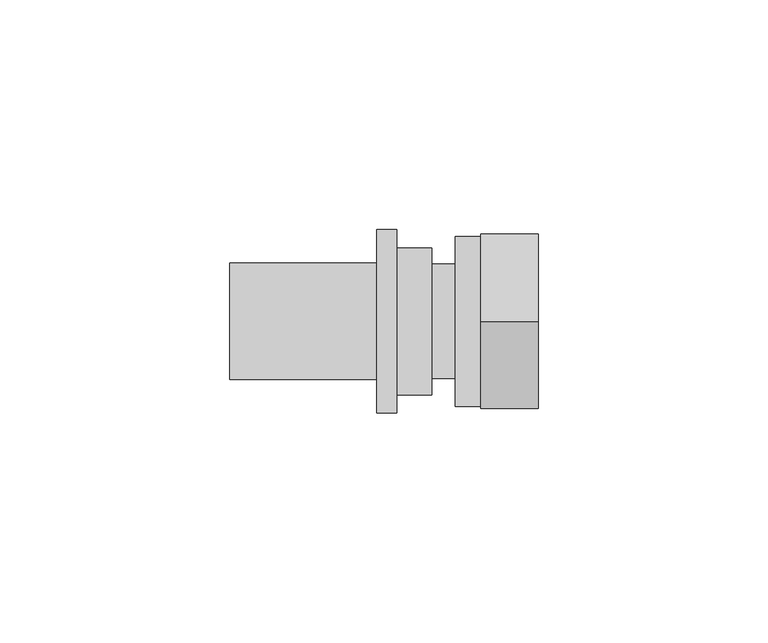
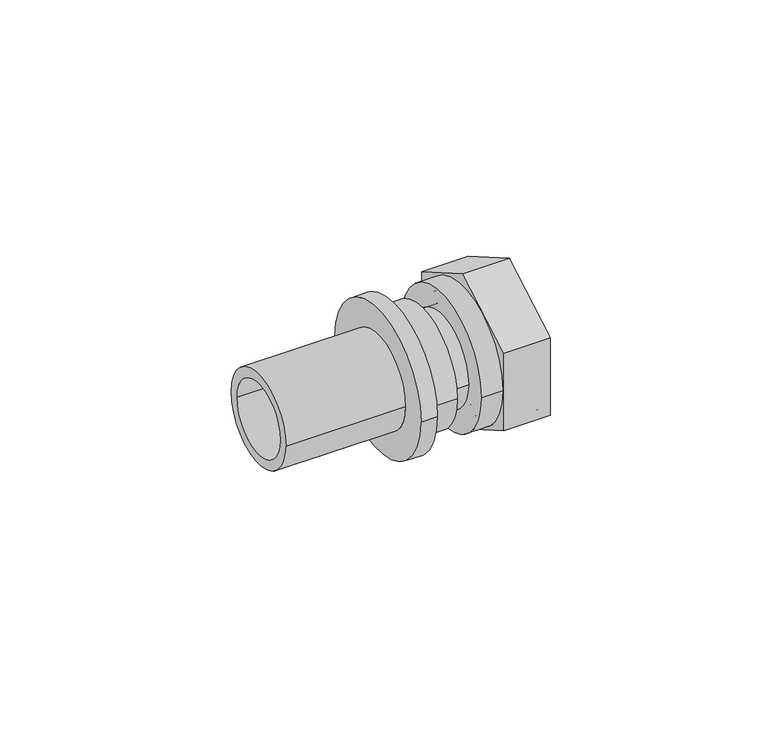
"""IFC4 building model written with IfcOpenShell, lengths in millimetres: pipe fitting geometry, REHAU_RAUTITAN_Adaptor_RX+_union nut : REHAU_RAUTITAN_Adaptor_RX+_union nut."""

from ifc_helpers import new_model, si_unit, point, frame, origin, origin_2d, place, context, project, spatial, polyline, circle_curve, trimmed, segment, composite_curve, outline, extrude, source, transform, mapped, element, save
from ifc_brep_helpers import plane_surface, cylinder_surface, revolved_surface, advanced_brep


def pipe_fitting_96b89afd(model_context):
    return source(origin(), model_context, "Body", "SolidModel", [
        extrude(outline(polyline([(0.0, -21.9393102), (-19.0, -10.9696551), (-19.0, 10.9696551), (0.0, 21.9393102), (19.0, 10.9696551), (19.0, -10.9696551), (0.0, -21.9393102)]), holes=[composite_curve([segment(trimmed(circle_curve(origin_2d(), 18.5), [point((-18.5, 0.0))], [point((18.5, 0.0))], True, "CARTESIAN"), True, "CONTINUOUS"), segment(trimmed(circle_curve(origin_2d(), 18.5), [point((18.5, 0.0))], [point((-18.5, 0.0))], True, "CARTESIAN"), True, "CONTINUOUS")], self_intersect=False)]), frame((10.7, 0.0, 0.0), z_axis=(1.0, 0.0, 0.0), x_axis=(0.0, 1.0, 0.0)), (0.0, 0.0, 1.0), 12.5),
        advanced_brep(
        [(23.2, 18.5, 0.0), (23.2, -18.5, 0.0), (5.1, -18.5, 0.0), (5.1, 18.5, 0.0), (8.0, 15.3, 0.0), (8.0, -15.3, 0.0), (23.2, -15.3, 0.0), (23.2, 15.3, 0.0), (5.1, 12.4, 0.0), (5.1, -12.4, 0.0), (8.0, -12.4, 0.0), (8.0, 12.4, 0.0)],
        [
            (0, 1, circle_curve(frame((23.2, 0.0, 0.0), z_axis=(-1.0, 0.0, 0.0), x_axis=(0.0, -1.0, 0.0)), 18.5)),
            (1, 2),
            (2, 3, circle_curve(frame((5.1, 0.0, 0.0), z_axis=(1.0, 0.0, 0.0), x_axis=(0.0, -1.0, 0.0)), 18.5)),
            (3, 0),
            (4, 5, circle_curve(frame((8.0, 0.0, 0.0), z_axis=(-1.0, 0.0, 0.0), x_axis=(0.0, -1.0, 0.0)), 15.3)),
            (5, 6),
            (6, 7, circle_curve(frame((23.2, 0.0, 0.0), z_axis=(1.0, 0.0, 0.0), x_axis=(0.0, -1.0, 0.0)), 15.3)),
            (7, 4),
            (8, 9, circle_curve(frame((5.1, 0.0, 0.0), z_axis=(-1.0, 0.0, 0.0), x_axis=(0.0, -1.0, 0.0)), 12.4)),
            (9, 10),
            (10, 11, circle_curve(frame((8.0, 0.0, 0.0), z_axis=(1.0, 0.0, 0.0), x_axis=(0.0, -1.0, 0.0)), 12.4)),
            (11, 8),
            (1, 0, circle_curve(frame((23.2, 0.0, 0.0), z_axis=(-1.0, 0.0, 0.0), x_axis=(0.0, 1.0, 0.0)), 18.5)),
            (3, 2, circle_curve(frame((5.1, 0.0, 0.0), z_axis=(1.0, 0.0, 0.0), x_axis=(0.0, 1.0, 0.0)), 18.5)),
            (6, 7, circle_curve(frame((23.2, 0.0, 0.0), z_axis=(-1.0, 0.0, 0.0), x_axis=(0.0, 1.0, 0.0)), 15.3)),
            (5, 4, circle_curve(frame((8.0, 0.0, 0.0), z_axis=(-1.0, 0.0, 0.0), x_axis=(0.0, 1.0, 0.0)), 15.3)),
            (10, 11, circle_curve(frame((8.0, 0.0, 0.0), z_axis=(-1.0, 0.0, 0.0), x_axis=(0.0, 1.0, 0.0)), 12.4)),
            (9, 8, circle_curve(frame((5.1, 0.0, 0.0), z_axis=(-1.0, 0.0, 0.0), x_axis=(0.0, 1.0, 0.0)), 12.4)),
        ],
        [
            cylinder_surface(frame((0.0, 0.0, 0.0), z_axis=(1.0, 0.0, 0.0), x_axis=(0.0, -1.0, 0.0)), 18.5),
            revolved_surface(polyline([(23.2, -15.3, 0.0), (8.0, -15.3, 0.0)]), (0.0, 0.0, 0.0), (1.0, 0.0, 0.0)),
            revolved_surface(polyline([(8.0, -12.4, 0.0), (5.1, -12.4, 0.0)]), (0.0, 0.0, 0.0), (1.0, 0.0, 0.0)),
            cylinder_surface(frame((0.0, 0.0, 0.0), z_axis=(1.0, 0.0, 0.0), x_axis=(0.0, 1.0, 0.0)), 18.5),
            plane_surface(frame((23.2, 0.0, 0.0), z_axis=(1.0, 0.0, 0.0), x_axis=(0.0, 1.0, 0.0))),
            revolved_surface(polyline([(23.2, 15.3, 0.0), (8.0, 15.3, 0.0)]), (0.0, 0.0, 0.0), (1.0, 0.0, 0.0)),
            plane_surface(frame((8.0, 0.0, 0.0), z_axis=(1.0, 0.0, 0.0), x_axis=(0.0, 1.0, 0.0))),
            revolved_surface(polyline([(8.0, 12.4, 0.0), (5.1, 12.4, 0.0)]), (0.0, 0.0, 0.0), (1.0, 0.0, 0.0)),
            plane_surface(frame((5.1, 0.0, 0.0), z_axis=(-1.0, 0.0, 0.0), x_axis=(0.0, 1.0, 0.0))),
        ],
        [
            (0, [[1, 2, 3, 4]]),
            (1, [[5, 6, 7, 8]]),
            (2, [[9, 10, 11, 12]]),
            (3, [[13, -4, 14, -2]]),
            (4, [[-13, -1], [15, -7]]),
            (5, [[16, -8, -15, -6]]),
            (6, [[-16, -5], [17, -11]]),
            (7, [[18, -12, -17, -10]]),
            (8, [[-14, -3], [-18, -9]]),
        ],
    ),
        advanced_brep(
        [(8.0, 12.5, 0.0), (8.0, -12.5, 0.0), (0.0, -12.5, 0.0), (0.0, 12.5, 0.0), (11.0, 15.3, 0.0), (11.0, -15.3, 0.0), (8.0, -15.3, 0.0), (8.0, 15.3, 0.0), (1.4730817, 10.0, 0.0), (1.4730817, -10.0, 0.0), (11.0, -10.0, 0.0), (11.0, 10.0, 0.0), (0.0, 7.8264556, 0.0), (0.0, -7.8264556, 0.0), (1.4730817, -7.8264556, 0.0), (1.4730817, 7.8264556, 0.0)],
        [
            (0, 1, circle_curve(frame((8.0, 0.0, 0.0), z_axis=(-1.0, 0.0, 0.0), x_axis=(0.0, -1.0, 0.0)), 12.5)),
            (1, 2),
            (2, 3, circle_curve(frame((0.0, 0.0, 0.0), z_axis=(1.0, 0.0, 0.0), x_axis=(0.0, -1.0, 0.0)), 12.5)),
            (3, 0),
            (4, 5, circle_curve(frame((11.0, 0.0, 0.0), z_axis=(-1.0, 0.0, 0.0), x_axis=(0.0, -1.0, 0.0)), 15.3)),
            (5, 6),
            (6, 7, circle_curve(frame((8.0, 0.0, 0.0), z_axis=(1.0, 0.0, 0.0), x_axis=(0.0, -1.0, 0.0)), 15.3)),
            (7, 4),
            (8, 9, circle_curve(frame((1.4730817, 0.0, 0.0), z_axis=(-1.0, 0.0, 0.0), x_axis=(0.0, -1.0, 0.0)), 10.0)),
            (9, 10),
            (10, 11, circle_curve(frame((11.0, 0.0, 0.0), z_axis=(1.0, 0.0, 0.0), x_axis=(0.0, -1.0, 0.0)), 10.0)),
            (11, 8),
            (2, 3, circle_curve(frame((0.0, 0.0, 0.0), z_axis=(-1.0, 0.0, 0.0), x_axis=(0.0, 1.0, 0.0)), 12.5)),
            (12, 13, circle_curve(frame((0.0, 0.0, 0.0), z_axis=(1.0, 0.0, 0.0), x_axis=(0.0, 1.0, 0.0)), 7.8264556)),
            (13, 12, circle_curve(frame((0.0, 0.0, 0.0), z_axis=(1.0, 0.0, 0.0), x_axis=(0.0, -1.0, 0.0)), 7.8264556)),
            (1, 0, circle_curve(frame((8.0, 0.0, 0.0), z_axis=(-1.0, 0.0, 0.0), x_axis=(0.0, 1.0, 0.0)), 12.5)),
            (6, 7, circle_curve(frame((8.0, 0.0, 0.0), z_axis=(-1.0, 0.0, 0.0), x_axis=(0.0, 1.0, 0.0)), 15.3)),
            (5, 4, circle_curve(frame((11.0, 0.0, 0.0), z_axis=(-1.0, 0.0, 0.0), x_axis=(0.0, 1.0, 0.0)), 15.3)),
            (10, 11, circle_curve(frame((11.0, 0.0, 0.0), z_axis=(-1.0, 0.0, 0.0), x_axis=(0.0, 1.0, 0.0)), 10.0)),
            (9, 8, circle_curve(frame((1.4730817, 0.0, 0.0), z_axis=(-1.0, 0.0, 0.0), x_axis=(0.0, 1.0, 0.0)), 10.0)),
            (13, 14),
            (14, 15, circle_curve(frame((1.4730817, 0.0, 0.0), z_axis=(1.0, 0.0, 0.0), x_axis=(0.0, -1.0, 0.0)), 7.8264556)),
            (15, 12),
            (14, 15, circle_curve(frame((1.4730817, 0.0, 0.0), z_axis=(-1.0, 0.0, 0.0), x_axis=(0.0, 1.0, 0.0)), 7.8264556)),
        ],
        [
            cylinder_surface(frame((0.0, 0.0, 0.0), z_axis=(1.0, 0.0, 0.0), x_axis=(0.0, -1.0, 0.0)), 12.5),
            cylinder_surface(frame((0.0, 0.0, 0.0), z_axis=(1.0, 0.0, 0.0), x_axis=(0.0, -1.0, 0.0)), 15.3),
            revolved_surface(polyline([(11.0, -10.0, 0.0), (1.4730817, -10.0, 0.0)]), (0.0, 0.0, 0.0), (1.0, 0.0, 0.0)),
            plane_surface(frame((0.0, 0.0, 0.0), z_axis=(-1.0, 0.0, 0.0), x_axis=(0.0, 1.0, 0.0))),
            cylinder_surface(frame((0.0, 0.0, 0.0), z_axis=(1.0, 0.0, 0.0), x_axis=(0.0, 1.0, 0.0)), 12.5),
            plane_surface(frame((8.0, 0.0, 0.0), z_axis=(-1.0, 0.0, 0.0), x_axis=(0.0, 1.0, 0.0))),
            cylinder_surface(frame((0.0, 0.0, 0.0), z_axis=(1.0, 0.0, 0.0), x_axis=(0.0, 1.0, 0.0)), 15.3),
            plane_surface(frame((11.0, 0.0, 0.0), z_axis=(1.0, 0.0, 0.0), x_axis=(0.0, 1.0, 0.0))),
            revolved_surface(polyline([(11.0, 10.0, 0.0), (1.4730817, 10.0, 0.0)]), (0.0, 0.0, 0.0), (1.0, 0.0, 0.0)),
            revolved_surface(polyline([(1.4730817, -7.8264556, 0.0), (0.0, -7.8264556, 0.0)]), (0.0, 0.0, 0.0), (1.0, 0.0, 0.0)),
            plane_surface(frame((1.4730817, 0.0, 0.0), z_axis=(1.0, 0.0, 0.0), x_axis=(0.0, 1.0, 0.0))),
            revolved_surface(polyline([(1.4730817, 7.8264556, 0.0), (0.0, 7.8264556, 0.0)]), (0.0, 0.0, 0.0), (1.0, 0.0, 0.0)),
        ],
        [
            (0, [[1, 2, 3, 4]]),
            (1, [[5, 6, 7, 8]]),
            (2, [[9, 10, 11, 12]]),
            (3, [[13, -3], [14, 15]]),
            (4, [[16, -4, -13, -2]]),
            (5, [[17, -7], [-16, -1]]),
            (6, [[18, -8, -17, -6]]),
            (7, [[-18, -5], [19, -11]]),
            (8, [[20, -12, -19, -10]]),
            (9, [[-15, 21, 22, 23]]),
            (10, [[-20, -9], [24, -22]]),
            (11, [[-14, -23, -24, -21]]),
        ],
    ),
        advanced_brep(
        [(0.0, 16.0, 0.0), (0.0, -16.0, 0.0), (-7.65, -16.0, 0.0), (-7.65, 16.0, 0.0), (-44.0, 10.0, 0.0), (-44.0, -10.0, 0.0), (0.0, -10.0, 0.0), (0.0, 10.0, 0.0), (-12.0, 12.725, 0.0), (-12.0, -12.725, 0.0), (-44.0, -12.725, 0.0), (-44.0, 12.725, 0.0), (-7.65, 20.0, 0.0), (-7.65, -20.0, 0.0), (-12.0, -20.0, 0.0), (-12.0, 20.0, 0.0)],
        [
            (0, 1, circle_curve(frame((0.0, 0.0, 0.0), z_axis=(-1.0, 0.0, 0.0), x_axis=(0.0, -1.0, 0.0)), 16.0)),
            (1, 2),
            (2, 3, circle_curve(frame((-7.65, 0.0, 0.0), z_axis=(1.0, 0.0, 0.0), x_axis=(0.0, -1.0, 0.0)), 16.0)),
            (3, 0),
            (4, 5, circle_curve(frame((-44.0, 0.0, 0.0), z_axis=(-1.0, 0.0, 0.0), x_axis=(0.0, -1.0, 0.0)), 10.0)),
            (5, 6),
            (6, 7, circle_curve(frame((0.0, 0.0, 0.0), z_axis=(1.0, 0.0, 0.0), x_axis=(0.0, -1.0, 0.0)), 10.0)),
            (7, 4),
            (8, 9, circle_curve(frame((-12.0, 0.0, 0.0), z_axis=(-1.0, 0.0, 0.0), x_axis=(0.0, -1.0, 0.0)), 12.725)),
            (9, 10),
            (10, 11, circle_curve(frame((-44.0, 0.0, 0.0), z_axis=(1.0, 0.0, 0.0), x_axis=(0.0, -1.0, 0.0)), 12.725)),
            (11, 8),
            (12, 13, circle_curve(frame((-7.65, 0.0, 0.0), z_axis=(-1.0, 0.0, 0.0), x_axis=(0.0, -1.0, 0.0)), 20.0)),
            (13, 14),
            (14, 15, circle_curve(frame((-12.0, 0.0, 0.0), z_axis=(1.0, 0.0, 0.0), x_axis=(0.0, -1.0, 0.0)), 20.0)),
            (15, 12),
            (1, 0, circle_curve(frame((0.0, 0.0, 0.0), z_axis=(-1.0, 0.0, 0.0), x_axis=(0.0, 1.0, 0.0)), 16.0)),
            (3, 2, circle_curve(frame((-7.65, 0.0, 0.0), z_axis=(1.0, 0.0, 0.0), x_axis=(0.0, 1.0, 0.0)), 16.0)),
            (6, 7, circle_curve(frame((0.0, 0.0, 0.0), z_axis=(-1.0, 0.0, 0.0), x_axis=(0.0, 1.0, 0.0)), 10.0)),
            (5, 4, circle_curve(frame((-44.0, 0.0, 0.0), z_axis=(-1.0, 0.0, 0.0), x_axis=(0.0, 1.0, 0.0)), 10.0)),
            (10, 11, circle_curve(frame((-44.0, 0.0, 0.0), z_axis=(-1.0, 0.0, 0.0), x_axis=(0.0, 1.0, 0.0)), 12.725)),
            (9, 8, circle_curve(frame((-12.0, 0.0, 0.0), z_axis=(-1.0, 0.0, 0.0), x_axis=(0.0, 1.0, 0.0)), 12.725)),
            (14, 15, circle_curve(frame((-12.0, 0.0, 0.0), z_axis=(-1.0, 0.0, 0.0), x_axis=(0.0, 1.0, 0.0)), 20.0)),
            (13, 12, circle_curve(frame((-7.65, 0.0, 0.0), z_axis=(-1.0, 0.0, 0.0), x_axis=(0.0, 1.0, 0.0)), 20.0)),
        ],
        [
            cylinder_surface(frame((0.0, 0.0, 0.0), z_axis=(1.0, 0.0, 0.0), x_axis=(0.0, -1.0, 0.0)), 16.0),
            revolved_surface(polyline([(0.0, -10.0, 0.0), (-44.0, -10.0, 0.0)]), (0.0, 0.0, 0.0), (1.0, 0.0, 0.0)),
            cylinder_surface(frame((0.0, 0.0, 0.0), z_axis=(1.0, 0.0, 0.0), x_axis=(0.0, -1.0, 0.0)), 12.725),
            cylinder_surface(frame((0.0, 0.0, 0.0), z_axis=(1.0, 0.0, 0.0), x_axis=(0.0, -1.0, 0.0)), 20.0),
            cylinder_surface(frame((0.0, 0.0, 0.0), z_axis=(1.0, 0.0, 0.0), x_axis=(0.0, 1.0, 0.0)), 16.0),
            plane_surface(frame((0.0, 0.0, 0.0), z_axis=(1.0, 0.0, 0.0), x_axis=(0.0, 1.0, 0.0))),
            revolved_surface(polyline([(0.0, 10.0, 0.0), (-44.0, 10.0, 0.0)]), (0.0, 0.0, 0.0), (1.0, 0.0, 0.0)),
            plane_surface(frame((-44.0, 0.0, 0.0), z_axis=(-1.0, 0.0, 0.0), x_axis=(0.0, 1.0, 0.0))),
            cylinder_surface(frame((0.0, 0.0, 0.0), z_axis=(1.0, 0.0, 0.0), x_axis=(0.0, 1.0, 0.0)), 12.725),
            plane_surface(frame((-12.0, 0.0, 0.0), z_axis=(-1.0, 0.0, 0.0), x_axis=(0.0, 1.0, 0.0))),
            cylinder_surface(frame((0.0, 0.0, 0.0), z_axis=(1.0, 0.0, 0.0), x_axis=(0.0, 1.0, 0.0)), 20.0),
            plane_surface(frame((-7.65, 0.0, 0.0), z_axis=(1.0, 0.0, 0.0), x_axis=(0.0, 1.0, 0.0))),
        ],
        [
            (0, [[1, 2, 3, 4]]),
            (1, [[5, 6, 7, 8]]),
            (2, [[9, 10, 11, 12]]),
            (3, [[13, 14, 15, 16]]),
            (4, [[17, -4, 18, -2]]),
            (5, [[-17, -1], [19, -7]]),
            (6, [[20, -8, -19, -6]]),
            (7, [[21, -11], [-20, -5]]),
            (8, [[22, -12, -21, -10]]),
            (9, [[23, -15], [-22, -9]]),
            (10, [[24, -16, -23, -14]]),
            (11, [[-24, -13], [-18, -3]]),
        ],
    ),
    ])


if __name__ == "__main__":
    model = new_model("IFC4")
    model_context = context("Model", 3, world=origin())
    ifc_project = project(units=[si_unit("LENGTHUNIT", "METRE", prefix="MILLI")], contexts=[model_context])
    site = spatial("IfcSite", under=ifc_project)
    building = spatial("IfcBuilding", under=site)
    placement = place(None, origin())
    pipe_fitting_shape = pipe_fitting_96b89afd(model_context)
    element("IfcPipeFitting", 1, ObjectType="REHAU_RAUTITAN_Adaptor_RX+_union nut : REHAU_RAUTITAN_Adaptor_RX+_union nut", at=placement, inside=building, context=model_context, shape_type="MappedRepresentation", body=[
        mapped(pipe_fitting_shape, transform((0.0, 0.0, 0.0), x_axis=(1.0, 0.0, 0.0), y_axis=(0.0, 1.0, 0.0), z_axis=(0.0, 0.0, 1.0))),
    ])
    save(model, "model.ifc")
